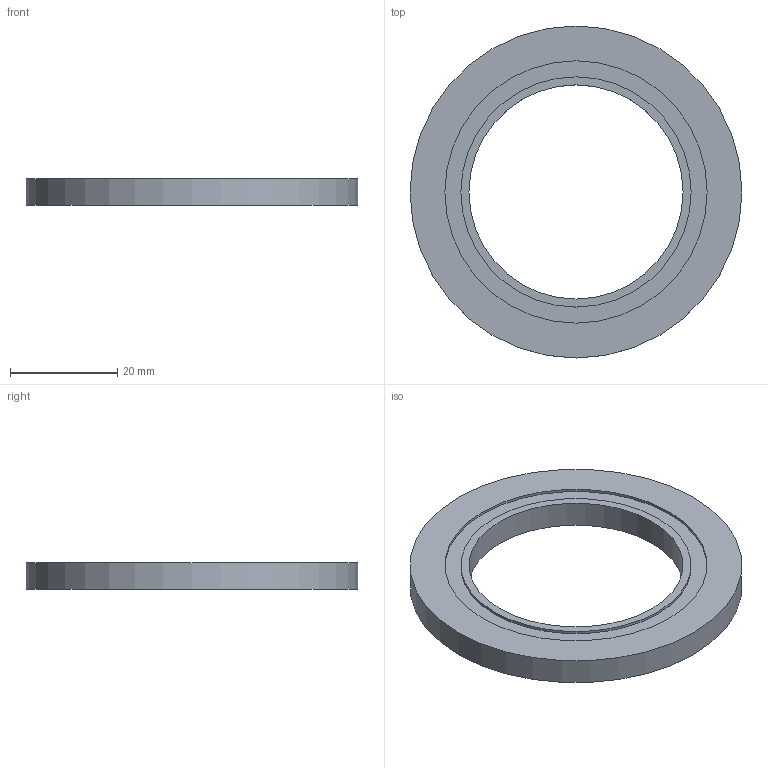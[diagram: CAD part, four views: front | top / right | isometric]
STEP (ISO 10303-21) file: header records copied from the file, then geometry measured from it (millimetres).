
FILE_DESCRIPTION(/* description */ (''),/* implementation_level */ '2;1');
FILE_NAME(/* name */ 'W:\WEBOVKY\Knecht\VD\VD40\VD40.stp',/* time_stamp */ '2021-03-08T12:28:27+01:00',/* author */ ('mkorenek'),/* organization */ (''),/* preprocessor_version */ 'ST-DEVELOPER v18.1',/* originating_system */ 'Autodesk Inventor 2021',/* authorisation */ '');
FILE_SCHEMA (('AUTOMOTIVE_DESIGN { 1 0 10303 214 3 1 1 }'));
Length unit declared in the file: millimetre
Products named in the file (1): VD16
Bounding box: 62 x 62 x 5 mm (x, y, z)
Volume: 8595.4 mm3; surface area: 5271.6 mm2
Topology: 1 solids, 1 shells, 8 faces, 16 edges, 12 vertices
Faces by surface type: plane 4, cylinder 4
Full cylindrical faces by diameter (mm): 40 x1, 43 x1, 49 x1, 62 x1
Entity records: 269 total; most frequent: DIRECTION 46, CARTESIAN_POINT 37, ORIENTED_EDGE 32, AXIS2_PLACEMENT_3D 21, EDGE_CURVE 16, EDGE_LOOP 12, CIRCLE 12, VERTEX_POINT 12
